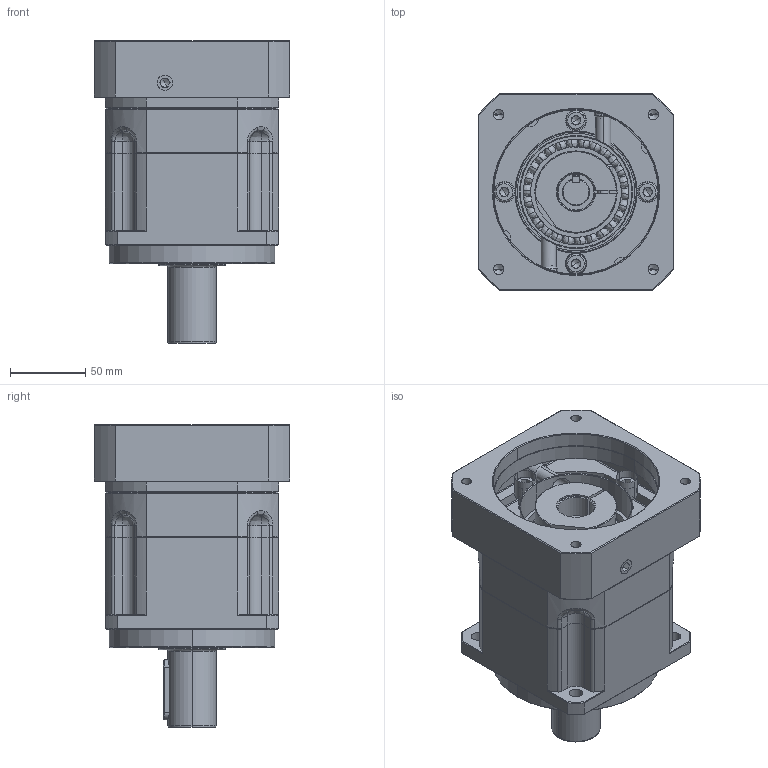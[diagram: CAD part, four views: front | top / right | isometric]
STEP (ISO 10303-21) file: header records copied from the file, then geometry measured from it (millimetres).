
FILE_DESCRIPTION (( 'STEP AP214' ), '1' );
FILE_NAME ('OB115L1-110-24-M8-145.STEP', '2020-08-14T09:06:53', ( '微软用户' ), ( '微软中国' ), 'SwSTEP 2.0', 'SolidWorks 2014', '' );
FILE_SCHEMA (( 'AUTOMOTIVE_DESIGN' ));
Length unit declared in the file: millimetre
Products named in the file (74): 俴陎謫菜え10.5; Circlips for hole--Type B GB_GB_CONNECTING_PIECE_RINGS_CHB 85; Spring lock washers--Normal type GB_GB_FASTENER_WASHER_SW 6; Hexagon socket head cap screws GB_GB_FASTENER_SCREWS_HSHCS M6X25-N; 珨撰俴陎謫5A; 115K110萇儂楊擘; Deep groove ball bearings GB_Rolling bearings 6010 GB 276-94; Hex socket set screws with flat point GB_GB_FASTENER_SCREWS_HSFP M12X16-N; Circlips for shaft--Type B GB_GB_CONNECTING_PIECE_RINGS_CSB 50; 珨撰薊粣ん24K20; Plain parallel keys_GB_CONNECTING_PIECE_KEYS_CSK C4X16; 幗渀粣創10.347X15.347X20; 珨撰笢潔楊擘; 珨撰怮栠謫5A; 俴陎粣10.347X33.5; Plain parallel keys_GB_CONNECTING_PIECE_KEYS_CSK 10X40; Hexagon socket head cap screws GB_GB_FASTENER_SCREWS_HSHCS M8X25-N; 蚐猾50X85X10; Circlips for hole--Type B GB_GB_CONNECTING_PIECE_RINGS_CHB 62; Deep groove ball bearings GB_Rolling bearings 6209 GB 276-94; Deep groove ball bearings GB_Rolling bearings 61816 GB 276-94; Spring lock washers--Normal type GB_GB_FASTENER_WASHER_SW 8; 怀堤粣5A; 一级齿圈Z84; OB115L1-110-24-M8-145
Assembly tree (49 placements, depth 2):
  俴陎謫菜え10.5
  Circlips for hole--Type B GB_GB_CONNECTING_PIECE_RINGS_CHB 85
  Spring lock washers--Normal type GB_GB_FASTENER_WASHER_SW 6
  珨撰俴陎謫5A
  Spring lock washers--Normal type GB_GB_FASTENER_WASHER_SW 6
Bounding box: 130 x 130 x 201 mm (x, y, z)
Volume: 1478376.4 mm3; surface area: 375687.6 mm2
Topology: 49 solids, 49 shells, 1815 faces, 5819 edges, 3536 vertices
Faces by surface type: bspline 589, cylinder 549, plane 454, cone 201, torus 22
Entity records: 72489 total; most frequent: CARTESIAN_POINT 32933, ORIENTED_EDGE 9198, DIRECTION 6770, EDGE_CURVE 4599, VERTEX_POINT 3054, AXIS2_PLACEMENT_3D 2913, CIRCLE 1955, EDGE_LOOP 1619
